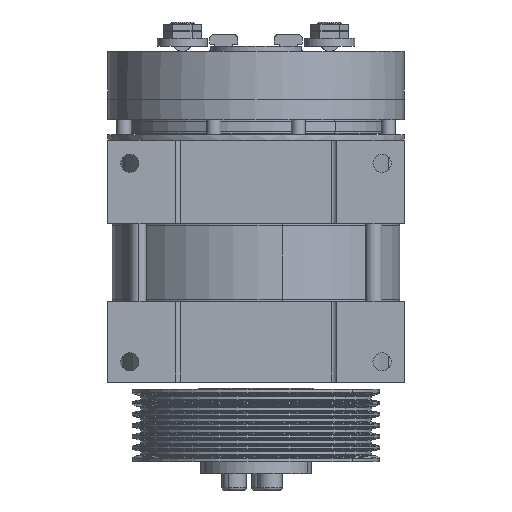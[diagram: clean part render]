
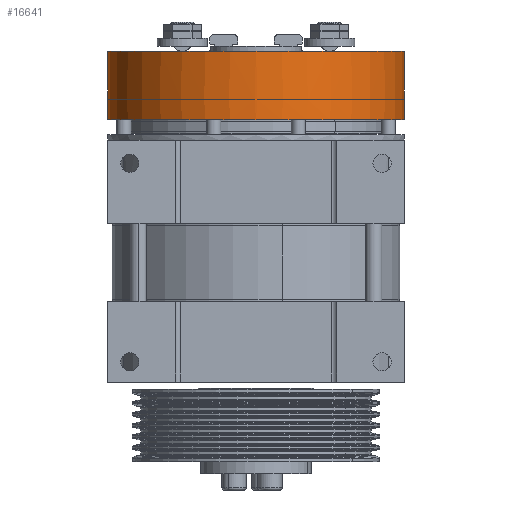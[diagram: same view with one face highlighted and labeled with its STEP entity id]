
A CAD part, front view. The second image highlights one B-rep face of the part: STEP entity #16641.
In plain terms, the highlighted cylindrical face has radius 147 mm (diameter 294 mm), a partial arc.
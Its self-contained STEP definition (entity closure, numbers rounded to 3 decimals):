
#405 = CARTESIAN_POINT ( 'NONE',  ( -7., 140., 47.5 ) ) ;
#1333 = CYLINDRICAL_SURFACE ( 'NONE', #29603, 147. ) ;
#1598 = CIRCLE ( 'NONE', #15005, 147. ) ;
#2076 = CIRCLE ( 'NONE', #39528, 147. ) ;
#2389 = EDGE_CURVE ( 'NONE', #29273, #37761, #37300, .T. ) ;
#3013 = CARTESIAN_POINT ( 'NONE',  ( -7., 140., 68. ) ) ;
#3467 = DIRECTION ( 'NONE',  ( 0., 0., 1. ) ) ;
#3482 = ORIENTED_EDGE ( 'NONE', *, *, #38998, .F. ) ;
#3860 = DIRECTION ( 'NONE',  ( -1., 0., 0. ) ) ;
#3973 = CARTESIAN_POINT ( 'NONE',  ( 287., 140., 47.5 ) ) ;
#4367 = DIRECTION ( 'NONE',  ( 0., 0., 1. ) ) ;
#4433 = CARTESIAN_POINT ( 'NONE',  ( -7., 140., 127. ) ) ;
#4677 = DIRECTION ( 'NONE',  ( 0., 0., -1. ) ) ;
#5308 = VECTOR ( 'NONE', #39087, 1000. ) ;
#5727 = EDGE_CURVE ( 'NONE', #36861, #27950, #14703, .T. ) ;
#5862 = ORIENTED_EDGE ( 'NONE', *, *, #37506, .T. ) ;
#6147 = EDGE_CURVE ( 'NONE', #45217, #42616, #28152, .T. ) ;
#6765 = DIRECTION ( 'NONE',  ( 0., 0., -1. ) ) ;
#6891 = VERTEX_POINT ( 'NONE', #24714 ) ;
#7784 = ORIENTED_EDGE ( 'NONE', *, *, #43773, .T. ) ;
#8303 = CARTESIAN_POINT ( 'NONE',  ( 287., 140., 0. ) ) ;
#8535 = CARTESIAN_POINT ( 'NONE',  ( 141.5, -6.992, 47.5 ) ) ;
#9023 = ORIENTED_EDGE ( 'NONE', *, *, #44814, .T. ) ;
#9531 = EDGE_CURVE ( 'NONE', #27950, #23636, #10336, .T. ) ;
#9646 = ORIENTED_EDGE ( 'NONE', *, *, #31020, .F. ) ;
#10336 = CIRCLE ( 'NONE', #47583, 147. ) ;
#10643 = DIRECTION ( 'NONE',  ( 0., 1., 0. ) ) ;
#10978 = LINE ( 'NONE', #4433, #20381 ) ;
#11133 = VERTEX_POINT ( 'NONE', #31221 ) ;
#11688 = DIRECTION ( 'NONE',  ( 0., -1., 0. ) ) ;
#11993 = DIRECTION ( 'NONE',  ( 0., 0., -1. ) ) ;
#12666 = CARTESIAN_POINT ( 'NONE',  ( 287., 140., 127. ) ) ;
#13237 = VERTEX_POINT ( 'NONE', #45925 ) ;
#13782 = LINE ( 'NONE', #22889, #28468 ) ;
#14077 = VERTEX_POINT ( 'NONE', #8535 ) ;
#14703 = LINE ( 'NONE', #15979, #38742 ) ;
#14853 = FACE_OUTER_BOUND ( 'NONE', #23252, .T. ) ;
#15005 = AXIS2_PLACEMENT_3D ( 'NONE', #21994, #6765, #32659 ) ;
#15798 = DIRECTION ( 'NONE',  ( 0., -1., 0. ) ) ;
#15820 = CARTESIAN_POINT ( 'NONE',  ( 140., 140., 48. ) ) ;
#15979 = CARTESIAN_POINT ( 'NONE',  ( -7., 140., 127. ) ) ;
#16639 = VECTOR ( 'NONE', #47412, 1000. ) ;
#16641 = ADVANCED_FACE ( 'NONE', ( #14853 ), #1333, .T. ) ;
#17310 = CARTESIAN_POINT ( 'NONE',  ( -7., 140., 48. ) ) ;
#17354 = VECTOR ( 'NONE', #4677, 1000. ) ;
#18615 = DIRECTION ( 'NONE',  ( 1., 0., 0. ) ) ;
#18741 = CARTESIAN_POINT ( 'NONE',  ( 140., 140., 127. ) ) ;
#19076 = DIRECTION ( 'NONE',  ( 0., 1., 0. ) ) ;
#19728 = DIRECTION ( 'NONE',  ( 0., 0., -1. ) ) ;
#20244 = AXIS2_PLACEMENT_3D ( 'NONE', #26939, #38262, #15798 ) ;
#20381 = VECTOR ( 'NONE', #27197, 1000. ) ;
#20691 = AXIS2_PLACEMENT_3D ( 'NONE', #44731, #41107, #18615 ) ;
#21306 = CARTESIAN_POINT ( 'NONE',  ( 141.5, -6.992, 175.07 ) ) ;
#21994 = CARTESIAN_POINT ( 'NONE',  ( 140., 140., 0. ) ) ;
#22097 = CARTESIAN_POINT ( 'NONE',  ( 140., 140., 48. ) ) ;
#22456 = ORIENTED_EDGE ( 'NONE', *, *, #44753, .F. ) ;
#22889 = CARTESIAN_POINT ( 'NONE',  ( 138.5, -6.992, 175.07 ) ) ;
#23252 = EDGE_LOOP ( 'NONE', ( #22456, #41647, #27489, #44495, #5862, #9023, #7784, #9646, #32295, #26386, #3482, #39258 ) ) ;
#23636 = VERTEX_POINT ( 'NONE', #25687 ) ;
#24077 = AXIS2_PLACEMENT_3D ( 'NONE', #22097, #3467, #10643 ) ;
#24714 = CARTESIAN_POINT ( 'NONE',  ( -7., 140., 0. ) ) ;
#25687 = CARTESIAN_POINT ( 'NONE',  ( 138.5, -6.992, 48. ) ) ;
#26037 = LINE ( 'NONE', #21306, #16639 ) ;
#26386 = ORIENTED_EDGE ( 'NONE', *, *, #38048, .T. ) ;
#26838 = DIRECTION ( 'NONE',  ( 0., 0., -1. ) ) ;
#26939 = CARTESIAN_POINT ( 'NONE',  ( 140., 140., 47.5 ) ) ;
#27197 = DIRECTION ( 'NONE',  ( 0., 0., -1. ) ) ;
#27489 = ORIENTED_EDGE ( 'NONE', *, *, #5727, .T. ) ;
#27950 = VERTEX_POINT ( 'NONE', #17310 ) ;
#28152 = LINE ( 'NONE', #12666, #5308 ) ;
#28244 = VERTEX_POINT ( 'NONE', #405 ) ;
#28468 = VECTOR ( 'NONE', #26838, 1000. ) ;
#29273 = VERTEX_POINT ( 'NONE', #36856 ) ;
#29603 = AXIS2_PLACEMENT_3D ( 'NONE', #18741, #30181, #3860 ) ;
#30181 = DIRECTION ( 'NONE',  ( 0., 0., -1. ) ) ;
#30526 = EDGE_CURVE ( 'NONE', #13237, #36861, #44469, .T. ) ;
#30838 = CARTESIAN_POINT ( 'NONE',  ( 140., 140., 47.5 ) ) ;
#31020 = EDGE_CURVE ( 'NONE', #42616, #6891, #1598, .T. ) ;
#31221 = CARTESIAN_POINT ( 'NONE',  ( 138.5, -6.992, 47.5 ) ) ;
#32295 = ORIENTED_EDGE ( 'NONE', *, *, #6147, .F. ) ;
#32659 = DIRECTION ( 'NONE',  ( -1., 0., 0. ) ) ;
#33726 = LINE ( 'NONE', #37125, #17354 ) ;
#36856 = CARTESIAN_POINT ( 'NONE',  ( 141.5, -6.992, 48. ) ) ;
#36861 = VERTEX_POINT ( 'NONE', #3013 ) ;
#37125 = CARTESIAN_POINT ( 'NONE',  ( 287., 140., 127. ) ) ;
#37300 = CIRCLE ( 'NONE', #24077, 147. ) ;
#37506 = EDGE_CURVE ( 'NONE', #23636, #11133, #13782, .T. ) ;
#37761 = VERTEX_POINT ( 'NONE', #40111 ) ;
#38048 = EDGE_CURVE ( 'NONE', #45217, #14077, #2076, .T. ) ;
#38262 = DIRECTION ( 'NONE',  ( 0., 0., -1. ) ) ;
#38742 = VECTOR ( 'NONE', #19728, 1000. ) ;
#38998 = EDGE_CURVE ( 'NONE', #29273, #14077, #26037, .T. ) ;
#39087 = DIRECTION ( 'NONE',  ( 0., 0., -1. ) ) ;
#39258 = ORIENTED_EDGE ( 'NONE', *, *, #2389, .T. ) ;
#39528 = AXIS2_PLACEMENT_3D ( 'NONE', #30838, #11993, #19076 ) ;
#40111 = CARTESIAN_POINT ( 'NONE',  ( 287., 140., 48. ) ) ;
#41107 = DIRECTION ( 'NONE',  ( 0., 0., -1. ) ) ;
#41647 = ORIENTED_EDGE ( 'NONE', *, *, #30526, .T. ) ;
#42616 = VERTEX_POINT ( 'NONE', #8303 ) ;
#43773 = EDGE_CURVE ( 'NONE', #28244, #6891, #10978, .T. ) ;
#44469 = CIRCLE ( 'NONE', #20691, 147. ) ;
#44495 = ORIENTED_EDGE ( 'NONE', *, *, #9531, .T. ) ;
#44731 = CARTESIAN_POINT ( 'NONE',  ( 140., 140., 68. ) ) ;
#44753 = EDGE_CURVE ( 'NONE', #13237, #37761, #33726, .T. ) ;
#44814 = EDGE_CURVE ( 'NONE', #11133, #28244, #45541, .T. ) ;
#45217 = VERTEX_POINT ( 'NONE', #3973 ) ;
#45541 = CIRCLE ( 'NONE', #20244, 147. ) ;
#45925 = CARTESIAN_POINT ( 'NONE',  ( 287., 140., 68. ) ) ;
#47412 = DIRECTION ( 'NONE',  ( 0., 0., -1. ) ) ;
#47583 = AXIS2_PLACEMENT_3D ( 'NONE', #15820, #4367, #11688 ) ;
